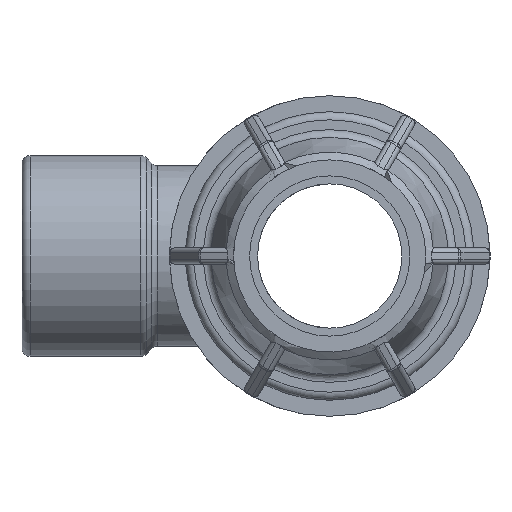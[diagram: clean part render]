
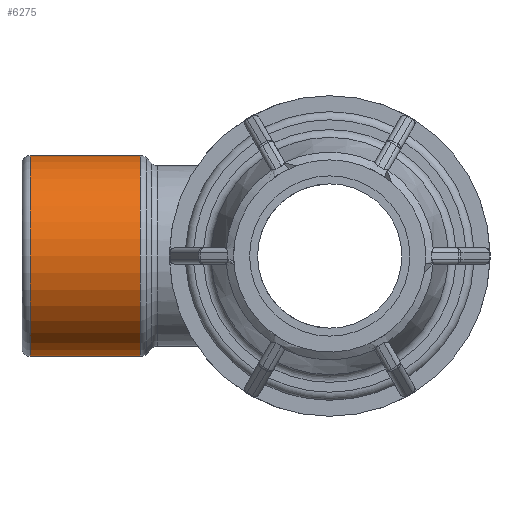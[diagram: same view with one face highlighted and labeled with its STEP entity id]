
A CAD part, left-side view. The second image highlights one B-rep face of the part: STEP entity #6275.
In plain terms, the highlighted cylindrical face has radius 15.676 mm (diameter 31.352 mm), a full revolution.
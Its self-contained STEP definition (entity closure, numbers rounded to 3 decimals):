
#1262=FACE_BOUND('',#2115,.T.);
#1672=FACE_OUTER_BOUND('',#2114,.T.);
#2114=EDGE_LOOP('',(#5734));
#2115=EDGE_LOOP('',(#5735));
#2467=CIRCLE('',#7026,15.676);
#2469=CIRCLE('',#7029,15.676);
#3007=VERTEX_POINT('',#11972);
#3009=VERTEX_POINT('',#11977);
#3919=EDGE_CURVE('',#3007,#3007,#2467,.T.);
#3921=EDGE_CURVE('',#3009,#3009,#2469,.T.);
#5734=ORIENTED_EDGE('',*,*,#3921,.F.);
#5735=ORIENTED_EDGE('',*,*,#3919,.F.);
#5870=CYLINDRICAL_SURFACE('',#7028,15.676);
#6275=ADVANCED_FACE('',(#1672,#1262),#5870,.T.);
#7026=AXIS2_PLACEMENT_3D('',#11973,#8886,#8887);
#7028=AXIS2_PLACEMENT_3D('',#11976,#8890,#8891);
#7029=AXIS2_PLACEMENT_3D('',#11978,#8892,#8893);
#8886=DIRECTION('center_axis',(0.,1.,0.));
#8887=DIRECTION('ref_axis',(1.,0.,0.));
#8890=DIRECTION('center_axis',(0.,1.,0.));
#8891=DIRECTION('ref_axis',(-1.,0.,0.));
#8892=DIRECTION('center_axis',(0.,-1.,0.));
#8893=DIRECTION('ref_axis',(1.,0.,0.));
#11972=CARTESIAN_POINT('',(-15.676,46.75,0.));
#11973=CARTESIAN_POINT('Origin',(0.,46.75,0.));
#11976=CARTESIAN_POINT('Origin',(0.,38.5,0.));
#11977=CARTESIAN_POINT('',(-15.676,29.518,0.));
#11978=CARTESIAN_POINT('Origin',(0.,29.518,0.));
